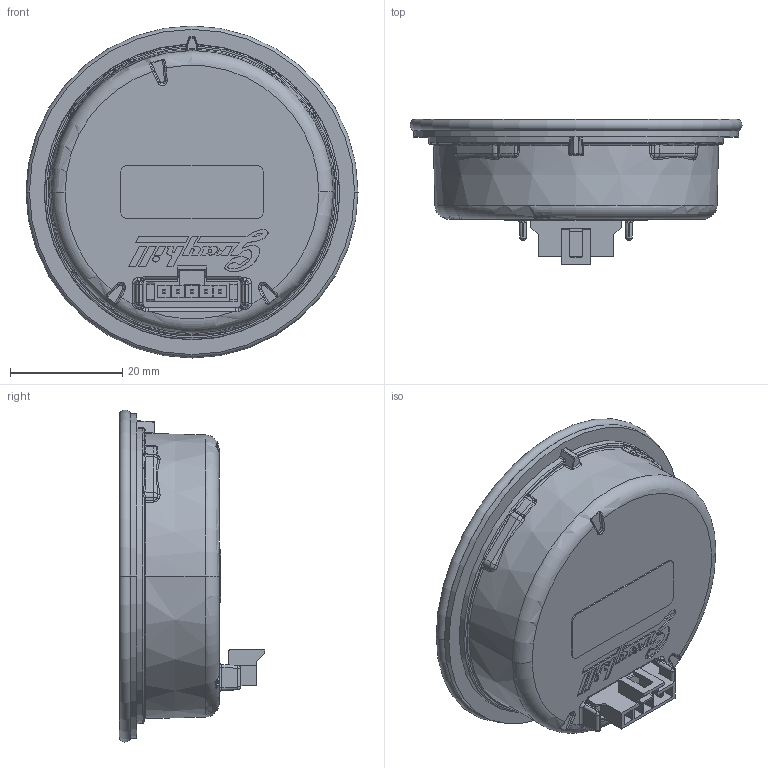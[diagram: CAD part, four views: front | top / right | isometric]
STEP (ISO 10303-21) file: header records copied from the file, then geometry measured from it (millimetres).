
FILE_DESCRIPTION((''),'2;1');
FILE_NAME('TE-F33B-X-XXX_SHIP_ASM','2024-01-10T',('arichard'),(''),'PRO/ENGINEER BY PARAMETRIC TECHNOLOGY CORPORATION, 2016100','PRO/ENGINEER BY PARAMETRIC TECHNOLOGY CORPORATION, 2016100','');
FILE_SCHEMA(('CONFIG_CONTROL_DESIGN'));
Length unit declared in the file: inch
Products named in the file (13): T10517-X; T13913-X_ASM; T15707-X; T15707-X_SHIP_ASM; T19931-2_SHIP_ASM; T11110; T1FC1023_FR4; T1FC1023_INSTALLED_ASM; T1ZZ1023_INSTALLED_ASM; SCN4215-0928; T19921-1_ASM; SSS2427-34_TE-F33B-1-11X; TE-F33B-X-XXX_SHIP_ASM
Assembly tree (12 placements, depth 5):
  TE-F33B-X-XXX_SHIP_ASM
    T19931-2_SHIP_ASM
      T13913-X_ASM
        T10517-X
      T15707-X_SHIP_ASM
        T15707-X
    T19921-1_ASM
      T11110
      T1ZZ1023_INSTALLED_ASM
        T1FC1023_INSTALLED_ASM
          T1FC1023_FR4
      SCN4215-0928
    SSS2427-34_TE-F33B-1-11X
Bounding box: 59.18 x 25.88 x 59.18 mm (x, y, z)
Volume: 14231.6 mm3; surface area: 19786 mm2
Topology: 6 solids, 6 shells, 783 faces, 1918 edges, 1176 vertices
Faces by surface type: plane 363, cylinder 194, bspline 125, torus 48, sphere 25, cone 18, extrusion 10
Entity records: 29314 total; most frequent: CARTESIAN_POINT 11128, ORIENTED_EDGE 3828, DIRECTION 3611, EDGE_CURVE 1914, AXIS2_PLACEMENT_3D 1272, VERTEX_POINT 1176, VECTOR 1067, LINE 1057
